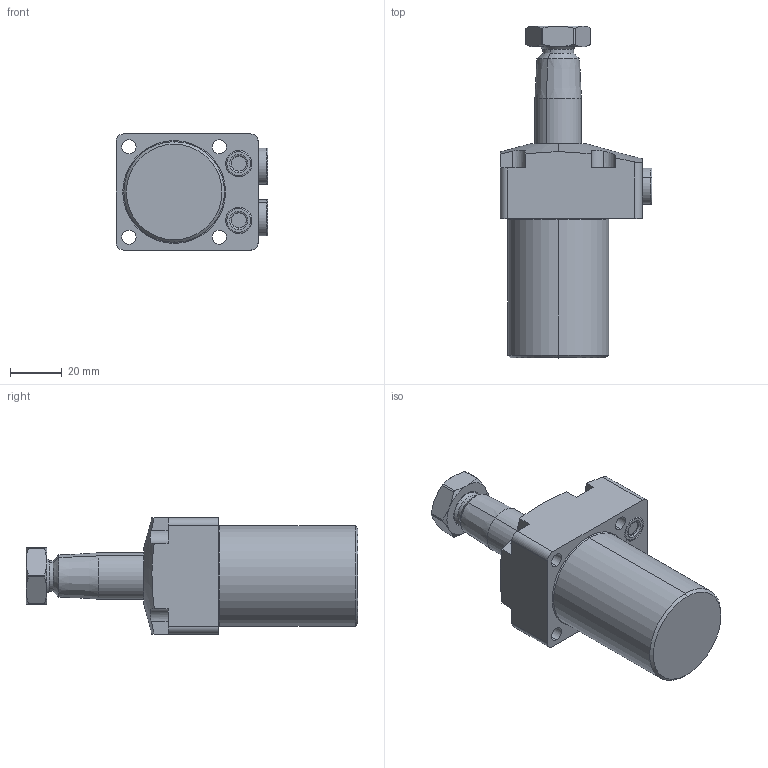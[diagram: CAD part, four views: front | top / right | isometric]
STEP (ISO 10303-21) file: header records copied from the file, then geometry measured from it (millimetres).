
FILE_DESCRIPTION(/* description */ (''),/* implementation_level */ '2;1');
FILE_NAME(/* name */ 'TRC02-RN60.stp',/* time_stamp */ '2025-01-04T10:10:32+08:00',/* author */ (''),/* organization */ (''),/* preprocessor_version */ 'ST-DEVELOPER v16.7',/* originating_system */ 'SIEMENS PLM Software NX 12.0',/* authorisation */ '');
FILE_SCHEMA (('AUTOMOTIVE_DESIGN { 1 0 10303 214 3 1 1 1 }'));
Length unit declared in the file: millimetre
Products named in the file (5): TRC02-RN60-04; TRC02-RN60-02; TRC02-RN60-01; TRC02-RN60-03; TRC02-RN60_stp
Assembly tree (5 placements, depth 2):
  TRC02-RN60_stp
    TRC02-RN60-03
    TRC02-RN60-01
    TRC02-RN60-02
    TRC02-RN60-04  x2
Bounding box: 58.8 x 128.5 x 45 mm (x, y, z)
Volume: 133880.8 mm3; surface area: 25648.1 mm2
Topology: 5 solids, 7 shells, 203 faces, 457 edges, 280 vertices
Faces by surface type: cylinder 73, plane 67, cone 40, torus 22, sphere 1
Entity records: 5354 total; most frequent: CARTESIAN_POINT 1094, DIRECTION 922, ORIENTED_EDGE 820, EDGE_CURVE 410, AXIS2_PLACEMENT_3D 378, VERTEX_POINT 252, EDGE_LOOP 206, CIRCLE 191
